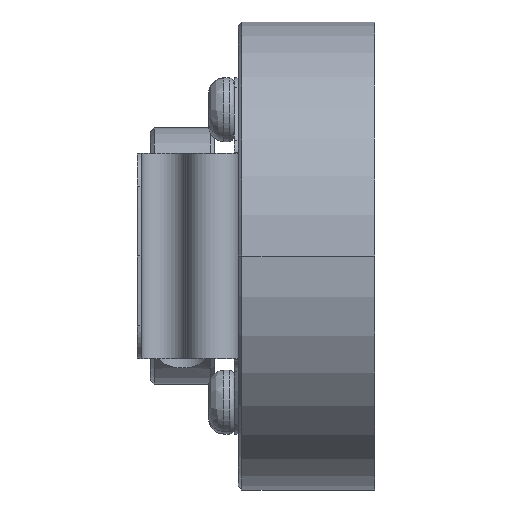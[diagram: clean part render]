
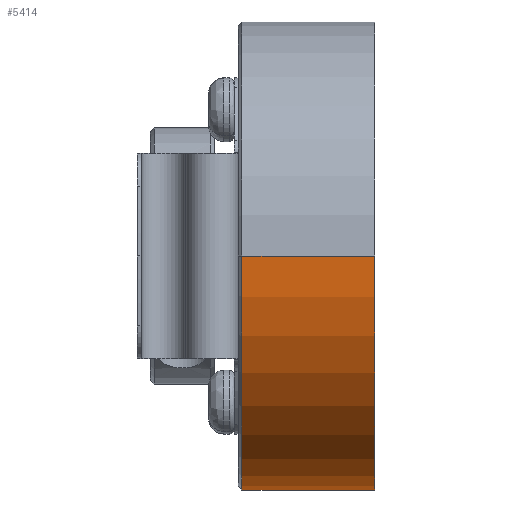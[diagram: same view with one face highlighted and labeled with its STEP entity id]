
A CAD part, front view. The second image highlights one B-rep face of the part: STEP entity #5414.
In plain terms, the highlighted cylindrical face has radius 18.25 mm (diameter 36.5 mm), a partial arc.
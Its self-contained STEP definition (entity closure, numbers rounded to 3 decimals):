
#2586 = EDGE_CURVE ( 'NONE', #12935, #8546, #10637, .T. ) ;
#3887 = CARTESIAN_POINT ( 'NONE',  ( -1.3, 0., 0. ) ) ;
#4467 = ORIENTED_EDGE ( 'NONE', *, *, #24014, .T. ) ;
#5068 = VERTEX_POINT ( 'NONE', #24189 ) ;
#5414 = ADVANCED_FACE ( 'NONE', ( #8222 ), #12143, .T. ) ;
#6058 = CARTESIAN_POINT ( 'NONE',  ( -11.65, 0., 0. ) ) ;
#6828 = AXIS2_PLACEMENT_3D ( 'NONE', #3887, #26703, #11039 ) ;
#6867 = LINE ( 'NONE', #15616, #18344 ) ;
#7058 = EDGE_LOOP ( 'NONE', ( #13638, #20001, #4467, #19832 ) ) ;
#8222 = FACE_OUTER_BOUND ( 'NONE', #7058, .T. ) ;
#8546 = VERTEX_POINT ( 'NONE', #17013 ) ;
#8706 = DIRECTION ( 'NONE',  ( 1., 0., 0. ) ) ;
#10637 = LINE ( 'NONE', #16858, #25740 ) ;
#10884 = DIRECTION ( 'NONE',  ( -1., 0., 0. ) ) ;
#11039 = DIRECTION ( 'NONE',  ( 0., 1., 0. ) ) ;
#12143 = CYLINDRICAL_SURFACE ( 'NONE', #26832, 18.25 ) ;
#12397 = DIRECTION ( 'NONE',  ( -1., 0., 0. ) ) ;
#12935 = VERTEX_POINT ( 'NONE', #13363 ) ;
#13363 = CARTESIAN_POINT ( 'NONE',  ( -1.3, -18.25, 0. ) ) ;
#13638 = ORIENTED_EDGE ( 'NONE', *, *, #24419, .T. ) ;
#13804 = EDGE_CURVE ( 'NONE', #5068, #14332, #6867, .T. ) ;
#14332 = VERTEX_POINT ( 'NONE', #27658 ) ;
#15616 = CARTESIAN_POINT ( 'NONE',  ( -1000., 18.25, 0. ) ) ;
#16858 = CARTESIAN_POINT ( 'NONE',  ( -1000., -18.25, 0. ) ) ;
#17013 = CARTESIAN_POINT ( 'NONE',  ( -11.65, -18.25, 0. ) ) ;
#18344 = VECTOR ( 'NONE', #10884, 1000. ) ;
#19832 = ORIENTED_EDGE ( 'NONE', *, *, #13804, .F. ) ;
#20001 = ORIENTED_EDGE ( 'NONE', *, *, #2586, .T. ) ;
#20386 = CIRCLE ( 'NONE', #24098, 18.25 ) ;
#21553 = DIRECTION ( 'NONE',  ( -1., 0., 0. ) ) ;
#22462 = DIRECTION ( 'NONE',  ( 0., 1., 0. ) ) ;
#22859 = CIRCLE ( 'NONE', #6828, 18.25 ) ;
#23760 = DIRECTION ( 'NONE',  ( 0., 1., 0. ) ) ;
#24014 = EDGE_CURVE ( 'NONE', #8546, #14332, #20386, .T. ) ;
#24098 = AXIS2_PLACEMENT_3D ( 'NONE', #6058, #8706, #22462 ) ;
#24189 = CARTESIAN_POINT ( 'NONE',  ( -1.3, 18.25, 0. ) ) ;
#24419 = EDGE_CURVE ( 'NONE', #5068, #12935, #22859, .T. ) ;
#25740 = VECTOR ( 'NONE', #21553, 1000. ) ;
#26703 = DIRECTION ( 'NONE',  ( -1., 0., 0. ) ) ;
#26832 = AXIS2_PLACEMENT_3D ( 'NONE', #28152, #12397, #23760 ) ;
#27658 = CARTESIAN_POINT ( 'NONE',  ( -11.65, 18.25, 0. ) ) ;
#28152 = CARTESIAN_POINT ( 'NONE',  ( -1000., 0., 0. ) ) ;
